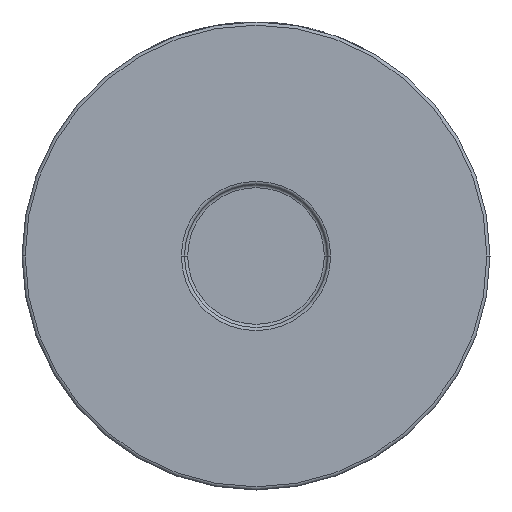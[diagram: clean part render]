
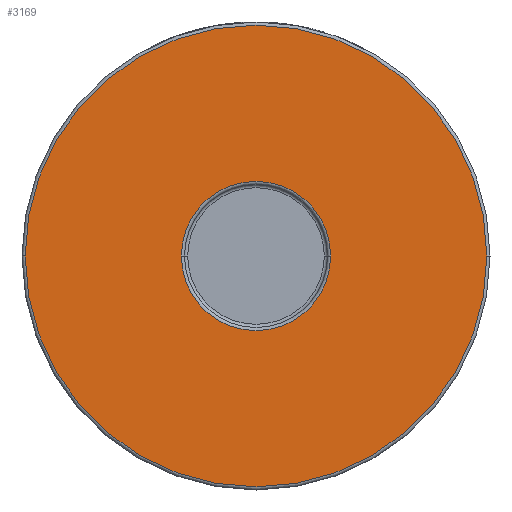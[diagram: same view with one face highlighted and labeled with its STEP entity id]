
A CAD part, front view. The second image highlights one B-rep face of the part: STEP entity #3169.
In plain terms, the highlighted planar face has unit normal (0, -1, 0).
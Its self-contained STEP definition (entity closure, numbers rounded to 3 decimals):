
#2 = CARTESIAN_POINT ( 'NONE',  ( -23.6, -45., 0. ) ) ;
#179 = AXIS2_PLACEMENT_3D ( 'NONE', #342, #1803, #297 ) ;
#243 = DIRECTION ( 'NONE',  ( 0., -1., 0. ) ) ;
#260 = CARTESIAN_POINT ( 'NONE',  ( 0., -45., 0. ) ) ;
#297 = DIRECTION ( 'NONE',  ( 1., 0., 0. ) ) ;
#342 = CARTESIAN_POINT ( 'NONE',  ( 0., -45., 0. ) ) ;
#408 = CARTESIAN_POINT ( 'NONE',  ( -73., -45., 0. ) ) ;
#578 = EDGE_CURVE ( 'NONE', #4566, #4103, #790, .T. ) ;
#780 = FACE_BOUND ( 'NONE', #3339, .T. ) ;
#790 = CIRCLE ( 'NONE', #3251, 23.6 ) ;
#819 = CARTESIAN_POINT ( 'NONE',  ( 23.6, -45., 0. ) ) ;
#931 = EDGE_CURVE ( 'NONE', #3185, #2340, #2326, .T. ) ;
#1117 = ORIENTED_EDGE ( 'NONE', *, *, #3253, .T. ) ;
#1205 = AXIS2_PLACEMENT_3D ( 'NONE', #2037, #2061, #3890 ) ;
#1460 = ORIENTED_EDGE ( 'NONE', *, *, #931, .T. ) ;
#1509 = DIRECTION ( 'NONE',  ( 1., 0., 0. ) ) ;
#1554 = EDGE_CURVE ( 'NONE', #2340, #3185, #2573, .T. ) ;
#1799 = AXIS2_PLACEMENT_3D ( 'NONE', #2064, #243, #3189 ) ;
#1803 = DIRECTION ( 'NONE',  ( 0., -1., 0. ) ) ;
#1940 = DIRECTION ( 'NONE',  ( 0., -1., 0. ) ) ;
#2037 = CARTESIAN_POINT ( 'NONE',  ( 0., -45., 0. ) ) ;
#2061 = DIRECTION ( 'NONE',  ( 0., 1., 0. ) ) ;
#2064 = CARTESIAN_POINT ( 'NONE',  ( 0., -45., 0. ) ) ;
#2326 = CIRCLE ( 'NONE', #1799, 73. ) ;
#2340 = VERTEX_POINT ( 'NONE', #4704 ) ;
#2380 = EDGE_LOOP ( 'NONE', ( #2437, #1460 ) ) ;
#2437 = ORIENTED_EDGE ( 'NONE', *, *, #1554, .T. ) ;
#2573 = CIRCLE ( 'NONE', #179, 73. ) ;
#2594 = AXIS2_PLACEMENT_3D ( 'NONE', #3744, #1940, #1509 ) ;
#2720 = ORIENTED_EDGE ( 'NONE', *, *, #578, .T. ) ;
#3018 = FACE_OUTER_BOUND ( 'NONE', #2380, .T. ) ;
#3169 = ADVANCED_FACE ( 'NONE', ( #780, #3018 ), #3455, .T. ) ;
#3185 = VERTEX_POINT ( 'NONE', #408 ) ;
#3189 = DIRECTION ( 'NONE',  ( 1., 0., 0. ) ) ;
#3251 = AXIS2_PLACEMENT_3D ( 'NONE', #260, #3548, #3959 ) ;
#3253 = EDGE_CURVE ( 'NONE', #4103, #4566, #4762, .T. ) ;
#3339 = EDGE_LOOP ( 'NONE', ( #1117, #2720 ) ) ;
#3455 = PLANE ( 'NONE',  #2594 ) ;
#3548 = DIRECTION ( 'NONE',  ( 0., 1., 0. ) ) ;
#3744 = CARTESIAN_POINT ( 'NONE',  ( 74., -45., 0. ) ) ;
#3890 = DIRECTION ( 'NONE',  ( 1., 0., 0. ) ) ;
#3959 = DIRECTION ( 'NONE',  ( 1., 0., 0. ) ) ;
#4103 = VERTEX_POINT ( 'NONE', #819 ) ;
#4566 = VERTEX_POINT ( 'NONE', #2 ) ;
#4704 = CARTESIAN_POINT ( 'NONE',  ( 73., -45., 0. ) ) ;
#4762 = CIRCLE ( 'NONE', #1205, 23.6 ) ;
